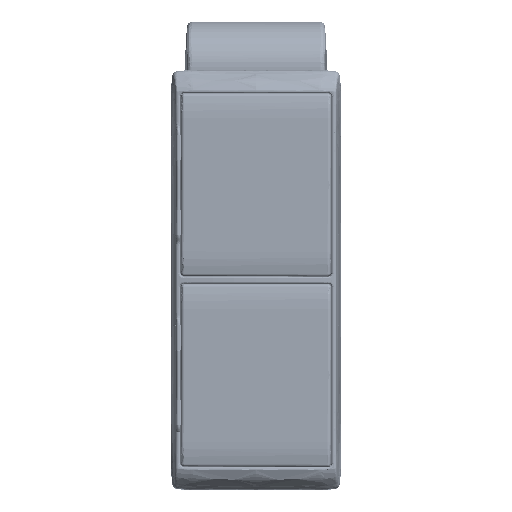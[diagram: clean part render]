
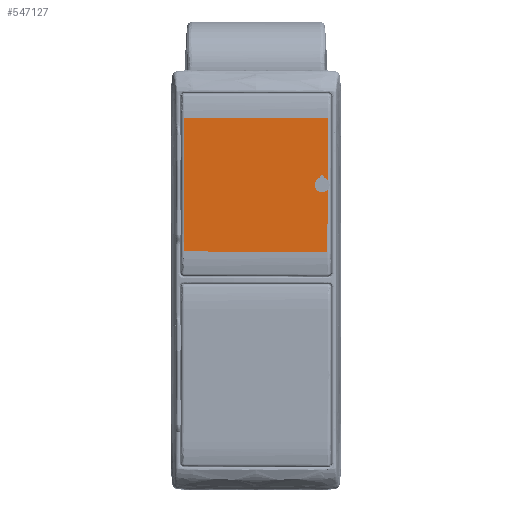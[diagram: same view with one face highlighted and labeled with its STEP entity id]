
A CAD part, top view. The second image highlights one B-rep face of the part: STEP entity #547127.
In plain terms, the highlighted planar face has unit normal (0, 0, 1).
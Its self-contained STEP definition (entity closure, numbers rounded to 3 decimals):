
#545096=DIRECTION('',(-1.,0.,0.));
#545097=VECTOR('',#545096,287.594);
#545098=CARTESIAN_POINT('',(313.712,745.55,
153.317));
#545099=LINE('',#545098,#545097);
#545103=DIRECTION('',(0.,1.,0.));
#545104=VECTOR('',#545103,134.088);
#545105=CARTESIAN_POINT('',(313.712,611.462,
153.317));
#545106=LINE('',#545105,#545104);
#545110=DIRECTION('',(0.004,1.,0.));
#545111=VECTOR('',#545110,134.088);
#545112=CARTESIAN_POINT('',(313.2,477.375,
153.317));
#545113=LINE('',#545112,#545111);
#545117=DIRECTION('',(1.,-0.004,
0.));
#545118=VECTOR('',#545117,287.594);
#545119=CARTESIAN_POINT('',(25.608,478.473,
153.317));
#545120=LINE('',#545119,#545118);
#545124=DIRECTION('',(-0.004,-1.,
0.));
#545125=VECTOR('',#545124,133.539);
#545126=CARTESIAN_POINT('',(26.118,612.011,
153.317));
#545127=LINE('',#545126,#545125);
#545131=CARTESIAN_POINT('',(302.699,611.996,
153.317));
#545132=DIRECTION('',(0.,0.,-1.));
#545133=DIRECTION('',(1.,0.,0.));
#545134=AXIS2_PLACEMENT_3D('',#545131,#545132,#545133);
#545139=CARTESIAN_POINT('',(302.699,611.996,
153.317));
#545140=DIRECTION('',(0.,0.,-1.));
#545141=DIRECTION('',(-1.,0.,0.));
#545142=AXIS2_PLACEMENT_3D('',#545139,#545140,#545141);
#545192=DIRECTION('',(0.,1.,0.));
#545193=VECTOR('',#545192,133.539);
#545194=CARTESIAN_POINT('',(26.118,612.011,
153.317));
#545195=LINE('',#545194,#545193);
#546835=CARTESIAN_POINT('',(313.712,745.55,
153.317));
#546836=CARTESIAN_POINT('',(26.118,745.55,
153.317));
#546837=VERTEX_POINT('',#546835);
#546838=VERTEX_POINT('',#546836);
#546843=CARTESIAN_POINT('',(310.346,611.996,
153.317));
#546844=CARTESIAN_POINT('',(295.052,611.996,
153.317));
#546845=VERTEX_POINT('',#546843);
#546846=VERTEX_POINT('',#546844);
#546847=CARTESIAN_POINT('',(26.118,612.011,
153.317));
#546848=VERTEX_POINT('',#546847);
#546849=CARTESIAN_POINT('',(313.712,611.462,
153.317));
#546850=VERTEX_POINT('',#546849);
#546851=CARTESIAN_POINT('',(313.2,477.375,
153.317));
#546852=VERTEX_POINT('',#546851);
#546853=CARTESIAN_POINT('',(25.608,478.473,
153.317));
#546854=VERTEX_POINT('',#546853);
#547102=CARTESIAN_POINT('',(19.418,328.75,
153.317));
#547103=DIRECTION('',(0.,0.,1.));
#547104=DIRECTION('',(0.,1.,0.));
#547105=AXIS2_PLACEMENT_3D('',#547102,#547103,#547104);
#547106=PLANE('',#547105);
#547108=ORIENTED_EDGE('',*,*,#547107,.F.);
#547110=ORIENTED_EDGE('',*,*,#547109,.F.);
#547112=ORIENTED_EDGE('',*,*,#547111,.F.);
#547114=ORIENTED_EDGE('',*,*,#547113,.F.);
#547116=ORIENTED_EDGE('',*,*,#547115,.F.);
#547118=ORIENTED_EDGE('',*,*,#547117,.T.);
#547119=EDGE_LOOP('',(#547108,#547110,#547112,#547114,#547116,#547118));
#547120=FACE_OUTER_BOUND('',#547119,.F.);
#547122=ORIENTED_EDGE('',*,*,#547121,.F.);
#547124=ORIENTED_EDGE('',*,*,#547123,.F.);
#547125=EDGE_LOOP('',(#547122,#547124));
#547126=FACE_BOUND('',#547125,.F.);
#545135=CIRCLE('',#545134,7.647);
#545143=CIRCLE('',#545142,7.647);
#547107=EDGE_CURVE('',#546837,#546838,#545099,.T.);
#547109=EDGE_CURVE('',#546850,#546837,#545106,.T.);
#547111=EDGE_CURVE('',#546852,#546850,#545113,.T.);
#547113=EDGE_CURVE('',#546854,#546852,#545120,.T.);
#547115=EDGE_CURVE('',#546848,#546854,#545127,.T.);
#547117=EDGE_CURVE('',#546848,#546838,#545195,.T.);
#547121=EDGE_CURVE('',#546845,#546846,#545135,.T.);
#547123=EDGE_CURVE('',#546846,#546845,#545143,.T.);
#547127=ADVANCED_FACE('',(#547120,#547126),#547106,.T.);
